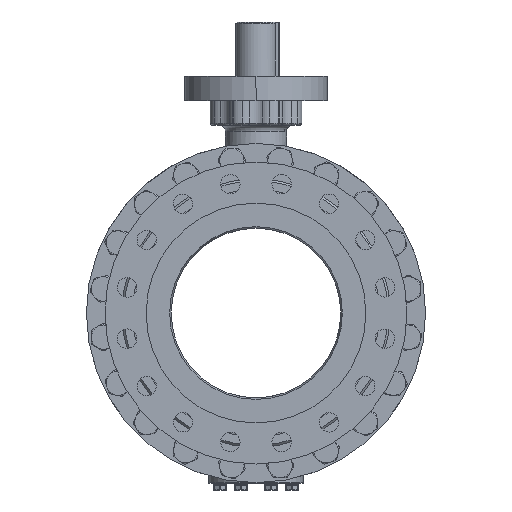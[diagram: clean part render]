
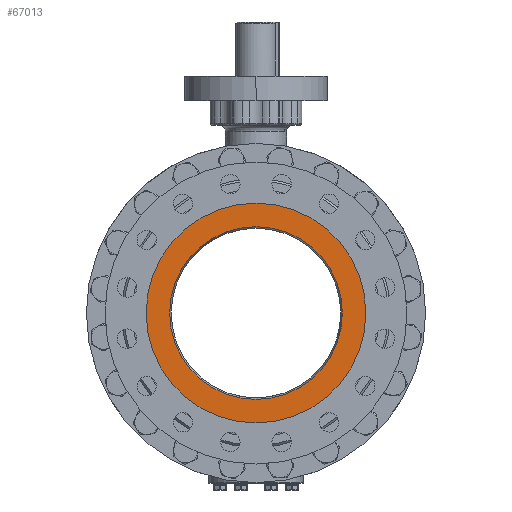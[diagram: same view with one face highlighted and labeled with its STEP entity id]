
A CAD part, left-side view. The second image highlights one B-rep face of the part: STEP entity #67013.
In plain terms, the highlighted planar face has unit normal (-1, 0, 0).
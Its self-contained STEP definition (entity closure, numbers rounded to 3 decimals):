
#4531=CARTESIAN_POINT('',(-284.,0.,0.));
#4532=DIRECTION('',(1.,0.,0.));
#4533=DIRECTION('',(0.,0.,1.));
#4534=AXIS2_PLACEMENT_3D('',#4531,#4532,#4533);
#4536=CARTESIAN_POINT('',(-284.,0.,0.));
#4537=DIRECTION('',(-1.,0.,0.));
#4538=DIRECTION('',(0.,0.,1.));
#4539=AXIS2_PLACEMENT_3D('',#4536,#4537,#4538);
#4541=CARTESIAN_POINT('',(-284.,0.,0.));
#4542=DIRECTION('',(1.,0.,0.));
#4543=DIRECTION('',(0.,0.,1.));
#4544=AXIS2_PLACEMENT_3D('',#4541,#4542,#4543);
#4546=CARTESIAN_POINT('',(-284.,0.,0.));
#4547=DIRECTION('',(-1.,0.,0.));
#4548=DIRECTION('',(0.,0.,1.));
#4549=AXIS2_PLACEMENT_3D('',#4546,#4547,#4548);
#55623=CARTESIAN_POINT('',(-284.,0.,127.3));
#55625=VERTEX_POINT('',#55623);
#55631=CARTESIAN_POINT('',(-284.,0.,-127.3));
#55633=VERTEX_POINT('',#55631);
#55782=CARTESIAN_POINT('',(-284.,0.,161.95));
#55784=VERTEX_POINT('',#55782);
#55786=CARTESIAN_POINT('',(-284.,0.,-161.95));
#55788=VERTEX_POINT('',#55786);
#66998=CARTESIAN_POINT('',(-284.,0.,0.));
#66999=DIRECTION('',(-1.,0.,0.));
#67000=DIRECTION('',(0.,0.,-1.));
#67001=AXIS2_PLACEMENT_3D('',#66998,#66999,#67000);
#67002=PLANE('',#67001);
#67003=ORIENTED_EDGE('',*,*,#66991,.F.);
#67004=ORIENTED_EDGE('',*,*,#66980,.T.);
#67005=EDGE_LOOP('',(#67003,#67004));
#67006=FACE_OUTER_BOUND('',#67005,.F.);
#67008=ORIENTED_EDGE('',*,*,#67007,.F.);
#67010=ORIENTED_EDGE('',*,*,#67009,.T.);
#67011=EDGE_LOOP('',(#67008,#67010));
#67012=FACE_BOUND('',#67011,.F.);
#67013=ADVANCED_FACE('',(#67006,#67012),#67002,.T.);
#4535=CIRCLE('',#4534,161.95);
#4540=CIRCLE('',#4539,161.95);
#4545=CIRCLE('',#4544,127.3);
#4550=CIRCLE('',#4549,127.3);
#66980=EDGE_CURVE('',#55784,#55788,#4535,.T.);
#66991=EDGE_CURVE('',#55784,#55788,#4540,.T.);
#67007=EDGE_CURVE('',#55625,#55633,#4545,.T.);
#67009=EDGE_CURVE('',#55625,#55633,#4550,.T.);
